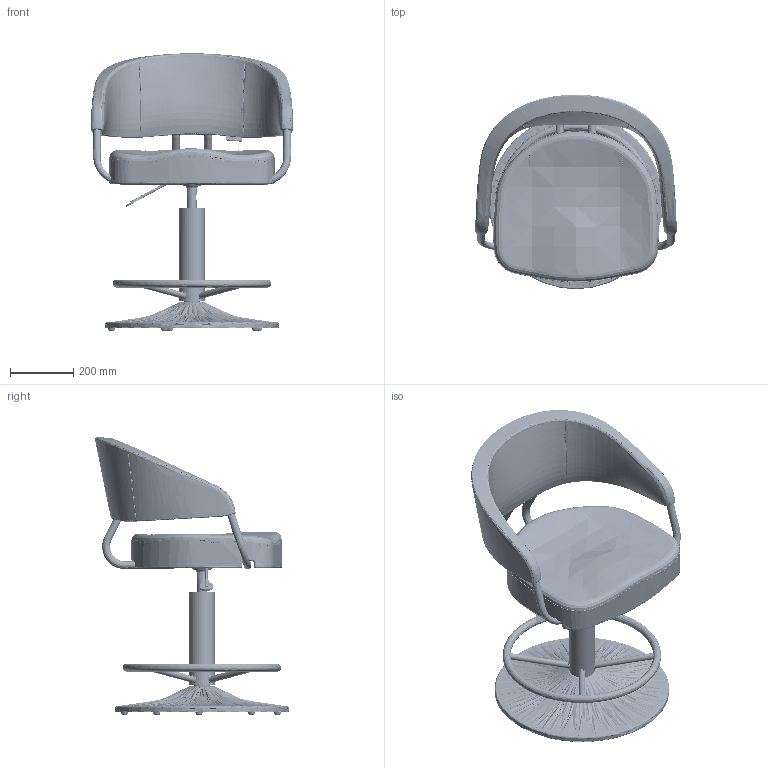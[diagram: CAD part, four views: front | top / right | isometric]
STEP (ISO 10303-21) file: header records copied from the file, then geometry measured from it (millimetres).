
FILE_DESCRIPTION(/* description */ (''),/* implementation_level */ '2;1');
FILE_NAME(/* name */ 'NERONE',/* time_stamp */ '2025-09-17T14:32:11+02:00',/* author */ (''),/* organization */ (''),/* preprocessor_version */ 'ST-DEVELOPER v19.2',/* originating_system */ 'Rhino 8.23',/* authorisation */ '');
FILE_SCHEMA (('CONFIG_CONTROL_DESIGN'));
Products named in the file (1): Document
Bounding box: 635.52 x 612.14 x 874.96 mm (x, y, z)
Volume: 6280617.3 mm3; surface area: 3909198.9 mm2
Topology: 1659 solids, 1688 shells, 6238 faces, 18050 edges, 8694 vertices
Faces by surface type: bspline 3862, plane 2131, cylinder 245
Entity records: 457503 total; most frequent: CARTESIAN_POINT 369055, ORIENTED_EDGE 22721, EDGE_CURVE 11517, B_SPLINE_CURVE_WITH_KNOTS 9714, VERTEX_POINT 8638, EDGE_LOOP 6351, ADVANCED_FACE 6238, FACE_OUTER_BOUND 6238
